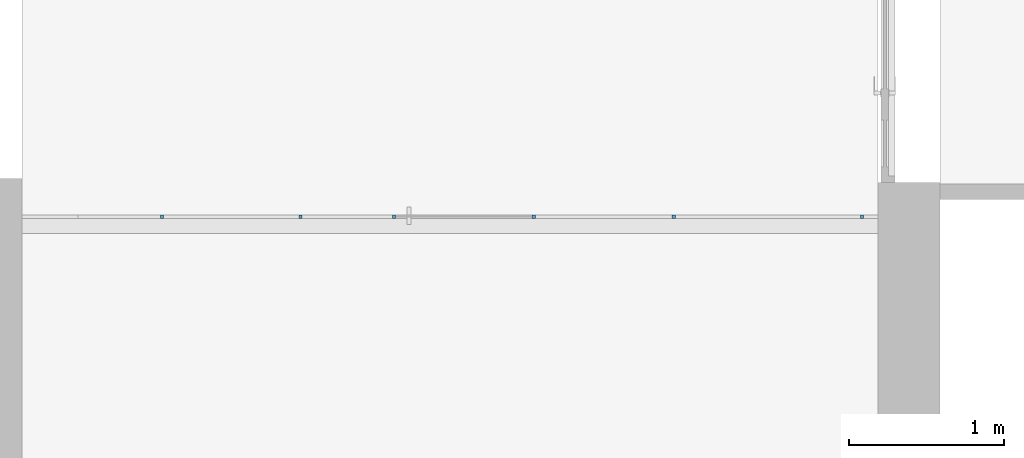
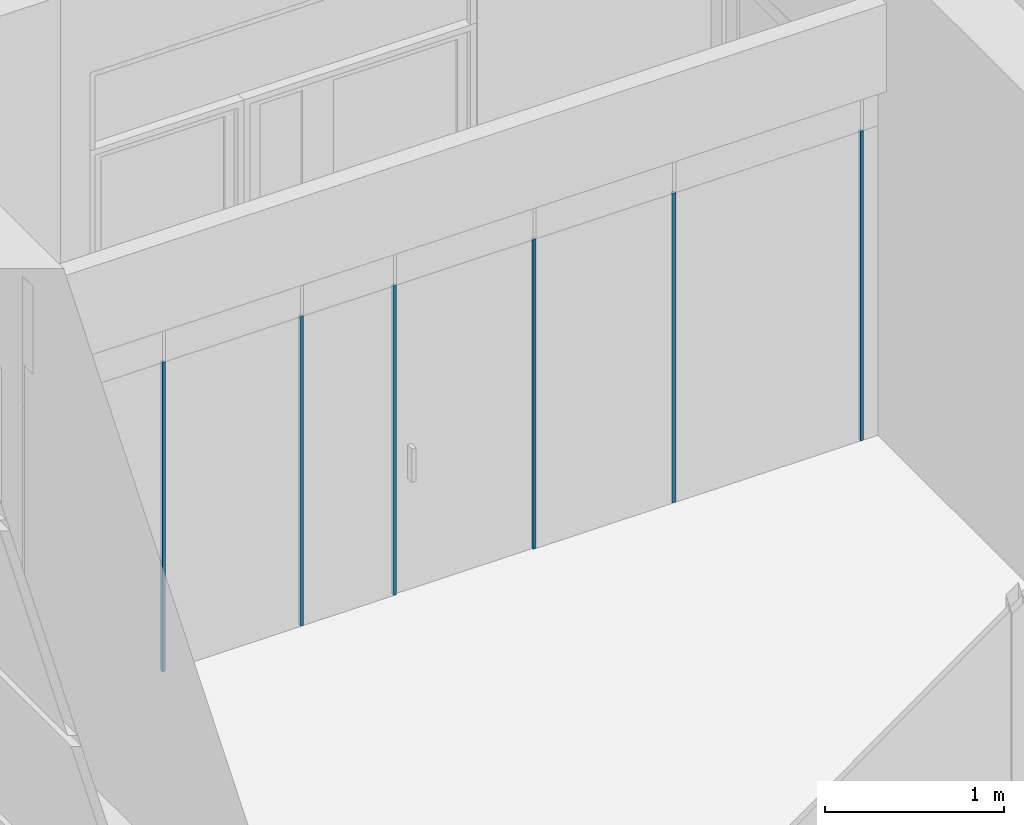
# One storey, part 1 of 73: 6 members, 1 element without a shape of its own.
"""IFC2X3 building model written with IfcOpenShell, lengths in millimetres."""

from ifc_helpers import new_model, entity, si_unit, converted_unit, derived_unit, direction, frame, origin, origin_2d_with_axis, place, context, subcontext, project, spatial, rectangle, extrude, source, transform, mapped, material, type_object, type_shapes, element, aggregate, save


model = new_model("IFC2X3")

# Units and contexts
model_context = context("Model", 3, precision=0.01, world=origin(), true_north=direction((6.12303176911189e-17, 1.0)))
body_context = subcontext(model_context, "Body", "Model", "MODEL_VIEW")
ifc_project = project(units=[si_unit("LENGTHUNIT", "METRE", prefix="MILLI"), si_unit("AREAUNIT", "SQUARE_METRE"), si_unit("VOLUMEUNIT", "CUBIC_METRE"), converted_unit("PLANEANGLEUNIT", "DEGREE", entity("IfcRatioMeasure", 0.0174532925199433), si_unit("PLANEANGLEUNIT", "RADIAN"), dimensions=[0, 0, 0, 0, 0, 0, 0]), si_unit("MASSUNIT", "GRAM", prefix="KILO"), derived_unit("MASSDENSITYUNIT", [(si_unit("MASSUNIT", "GRAM", prefix="KILO"), 1), (si_unit("LENGTHUNIT", "METRE"), -3)]), si_unit("TIMEUNIT", "SECOND"), si_unit("FREQUENCYUNIT", "HERTZ"), si_unit("THERMODYNAMICTEMPERATUREUNIT", "DEGREE_CELSIUS"), derived_unit("THERMALTRANSMITTANCEUNIT", [(si_unit("MASSUNIT", "GRAM", prefix="KILO"), 1), (si_unit("THERMODYNAMICTEMPERATUREUNIT", "KELVIN"), -1), (si_unit("TIMEUNIT", "SECOND"), -3)]), derived_unit("VOLUMETRICFLOWRATEUNIT", [(si_unit("LENGTHUNIT", "METRE"), 3), (si_unit("TIMEUNIT", "SECOND"), -1)]), si_unit("ELECTRICCURRENTUNIT", "AMPERE"), si_unit("ELECTRICVOLTAGEUNIT", "VOLT"), si_unit("POWERUNIT", "WATT"), si_unit("FORCEUNIT", "NEWTON", prefix="KILO"), si_unit("ILLUMINANCEUNIT", "LUX"), si_unit("LUMINOUSFLUXUNIT", "LUMEN"), si_unit("LUMINOUSINTENSITYUNIT", "CANDELA"), derived_unit("USERDEFINED", [(si_unit("MASSUNIT", "GRAM", prefix="KILO"), -1), (si_unit("LENGTHUNIT", "METRE"), -2), (si_unit("TIMEUNIT", "SECOND"), 3), (si_unit("LUMINOUSFLUXUNIT", "LUMEN"), 1)]), derived_unit("LINEARVELOCITYUNIT", [(si_unit("LENGTHUNIT", "METRE"), 1), (si_unit("TIMEUNIT", "SECOND"), -1)]), si_unit("PRESSUREUNIT", "PASCAL"), derived_unit("USERDEFINED", [(si_unit("LENGTHUNIT", "METRE"), -2), (si_unit("MASSUNIT", "GRAM", prefix="KILO"), 1), (si_unit("TIMEUNIT", "SECOND"), -2)])], contexts=[model_context])

# Site, building, storey
site_placement = place(None, frame((-151.875543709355, 2715.0, 0.0)))
site = spatial("IfcSite", under=ifc_project, at=site_placement, Name="Surface", CompositionType="ELEMENT")
building_placement = place(site_placement, origin())
building = spatial("IfcBuilding", under=site, at=building_placement, CompositionType="ELEMENT")
storey_placement = place(building_placement, frame((0.0, 0.0, 6730.43000000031)))
storey = spatial("IfcBuildingStorey", under=building, at=storey_placement, Name="3 korrus", CompositionType="ELEMENT", Elevation=6730.43000000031)

# Curtain wall, members
curtain_wall_type = type_object("IfcCurtainWallType", Name="Curtain Wall:Klaassein KLS-07", PredefinedType="NOTDEFINED")
curtain_wall_placement = place(storey_placement, frame((0.0, 0.0, -6730.43000000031)))
curtain_wall = element("IfcCurtainWall", 1, at=curtain_wall_placement, inside=storey, type_object=curtain_wall_type, Name="Curtain Wall:Klaassein KLS-07", ObjectType="Curtain Wall:Klaassein KLS-07")
ifc_material = material(Name="__Uks_hele tamm")
member_type = type_object("IfcMemberType", Name="20 x 20mm", PredefinedType="MEMBER")
shared_shape = source(origin(), body_context, "Body", "SweptSolid", [
    extrude(rectangle(XDim=20.0, YDim=20.0, at=origin_2d_with_axis()), frame((0.0, 0.0, -2110.0), z_axis=(0.0, 0.0, 1.0), x_axis=(0.0, -1.0, 0.0)), (0.0, 0.0, 1.0), 2110.0),
])
type_shapes(member_type, [shared_shape])
member_1_placement = place(storey_placement, frame((1359.87554580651, 4155.04146275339, 0.0), z_axis=(0.0, 0.0, -1.0), x_axis=(1.0, 0.0, 0.0)))
member_1 = element("IfcMember", 2, at=member_1_placement, type_object=member_type, material=ifc_material, Name="Rectangular Mullion:20 x 20mm", ObjectType="20 x 20mm", context=body_context, shape_type="MappedRepresentation", body=[
    mapped(shared_shape, transform((0.0, 0.0, 0.0), scale=1.0)),
])
member_2_placement = place(storey_placement, frame((2249.87554580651, 4155.04146275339, 0.0), z_axis=(0.0, 0.0, -1.0), x_axis=(1.0, 0.0, 0.0)))
member_2 = element("IfcMember", 3, at=member_2_placement, type_object=member_type, material=ifc_material, Name="Rectangular Mullion:20 x 20mm", ObjectType="20 x 20mm", context=body_context, shape_type="MappedRepresentation", body=[
    mapped(shared_shape, transform((0.0, 0.0, 0.0), scale=1.0)),
])
member_3_placement = place(storey_placement, frame((2849.87554580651, 4155.04146275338, 0.0), z_axis=(0.0, 0.0, -1.0), x_axis=(1.0, 0.0, 0.0)))
member_3 = element("IfcMember", 4, at=member_3_placement, type_object=member_type, material=ifc_material, Name="Rectangular Mullion:20 x 20mm", ObjectType="20 x 20mm", context=body_context, shape_type="MappedRepresentation", body=[
    mapped(shared_shape, transform((0.0, 0.0, 0.0), scale=1.0)),
])
member_4_placement = place(storey_placement, frame((3749.87554580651, 4155.04146275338, 0.0), z_axis=(0.0, 0.0, -1.0), x_axis=(1.0, 0.0, 0.0)))
member_4 = element("IfcMember", 5, at=member_4_placement, type_object=member_type, material=ifc_material, Name="Rectangular Mullion:20 x 20mm", ObjectType="20 x 20mm", context=body_context, shape_type="MappedRepresentation", body=[
    mapped(shared_shape, transform((0.0, 0.0, 0.0), scale=1.0)),
])
member_5_placement = place(storey_placement, frame((4649.87554580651, 4155.04146275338, 0.0), z_axis=(0.0, 0.0, -1.0), x_axis=(1.0, 0.0, 0.0)))
member_5 = element("IfcMember", 6, at=member_5_placement, type_object=member_type, material=ifc_material, Name="Rectangular Mullion:20 x 20mm", ObjectType="20 x 20mm", context=body_context, shape_type="MappedRepresentation", body=[
    mapped(shared_shape, transform((0.0, 0.0, 0.0), scale=1.0)),
])
member_6_placement = place(storey_placement, frame((5859.87554580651, 4155.04146275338, 0.0), z_axis=(0.0, 0.0, -1.0), x_axis=(1.0, 0.0, 0.0)))
member_6 = element("IfcMember", 7, at=member_6_placement, type_object=member_type, material=ifc_material, Name="Rectangular Mullion:20 x 20mm", ObjectType="20 x 20mm", context=body_context, shape_type="MappedRepresentation", body=[
    mapped(shared_shape, transform((0.0, 0.0, 0.0), scale=1.0)),
])
aggregate(curtain_wall, [member_1, member_2, member_3, member_4, member_5, member_6])

save(model, "model.ifc")
